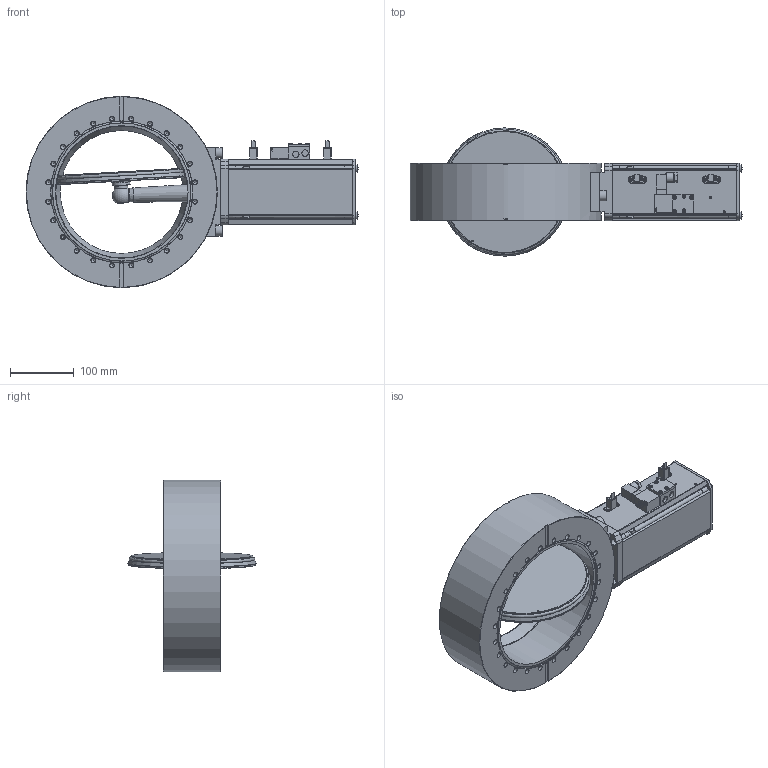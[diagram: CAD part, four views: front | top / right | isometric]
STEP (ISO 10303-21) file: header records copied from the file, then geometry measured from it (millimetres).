
FILE_DESCRIPTION(/* description */ (''),/* implementation_level */ '2;1');
FILE_NAME(/* name */ '1203612080_203.stp',/* time_stamp */ '2010-12-02T09:33:24+01:00',/* author */ (''),/* organization */ (''),/* preprocessor_version */ 'ST-DEVELOPER v11',/* originating_system */ 'SIEMENS UGS NX 6.0',/* authorisation */ '');
FILE_SCHEMA (('CONFIG_CONTROL_DESIGN'));
Length unit declared in the file: millimetre
Products named in the file (35): 227430.1; N-8409-200.3; 92571-01.2; n-6089-314.1; 369196; 227328.2; 227452.1; N-6024-515.1; 227450.1; N-7557-016_1.1; N-7557-018.1; N-7557-016_2.1; N-7557-016_3.1; N-6024-524.1; N-5018-005.1; 234139.1; 221989.1; 223363.2; 234196.5; 245137.5; N-6013-443.2; N-6005-519.1; 223338.5; 85949-01.1; 223317.5; 223352.1; N-6024-571.1; N-6073-406.1; 218204.1; 227117.3; 226699_NX-ARRAGMNTZUSAMMENST1; 94800-R1.7_NX-ARRAGMNTKONFIG4; 369198_MODEL; 243954.2_NX-ARRAGMNTZUSAMMENST1; 245111.8
Assembly tree (53 placements, depth 4):
  245111.8
    218204.1  x2
    N-6073-406.1  x2
    N-6024-571.1  x4
    243954.2_NX-ARRAGMNTZUSAMMENST1
      221989.1
      234139.1
      369198_MODEL
        369196
        n-6089-314.1
    223352.1  x4
    94800-R1.7_NX-ARRAGMNTKONFIG4
      N-5018-005.1  x2
      N-6024-524.1  x6
      N-7557-016_3.1
      N-7557-016_2.1
      N-7557-018.1
      N-7557-016_1.1
    223317.5
    85949-01.1
    223338.5
    N-6005-519.1
    N-6013-443.2  x4
    245137.5
    234196.5
    223363.2
    226699_NX-ARRAGMNTZUSAMMENST1  x2
      227450.1
      N-6024-515.1
      227452.1
      227328.2
      227117.3
        92571-01.2
        N-8409-200.3
        227430.1
Bounding box: 520.5 x 201.05 x 299.99 mm (x, y, z)
Volume: 4800982.1 mm3; surface area: 657053.5 mm2
Topology: 63 solids, 63 shells, 1763 faces, 4195 edges, 2724 vertices
Faces by surface type: plane 1077, cylinder 482, cone 136, sphere 26, bspline 21, torus 17, extrusion 4
Full cylindrical faces by diameter (mm): 0.4 x4, 0.6 x4, 1.1 x4, 1.5 x2, 2 x5, 2.2 x4, 2.5 x13, 2.9 x4, 3 x15, 3.2 x2, 3.4 x4, 3.5 x6, 4 x8, 4.16 x2, 4.2 x10, 4.3 x1, 5 x25, 5.3 x4, 6 x21, 6.5 x4, 6.6 x4, 6.8 x48, 7.5 x5, 7.9 x2, 8 x54, 8.36 x3, 8.4 x3, 8.5 x2, 8.8 x2, 10 x13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
Entity records: 37553 total; most frequent: CARTESIAN_POINT 6987, DIRECTION 5537, ORIENTED_EDGE 4638, EDGE_CURVE 2319, AXIS2_PLACEMENT_3D 2146, EDGE_LOOP 1811, VERTEX_POINT 1791, FACE_BOUND 1256
